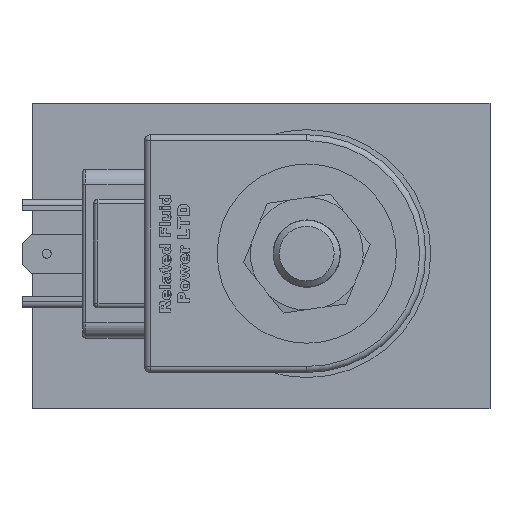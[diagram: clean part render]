
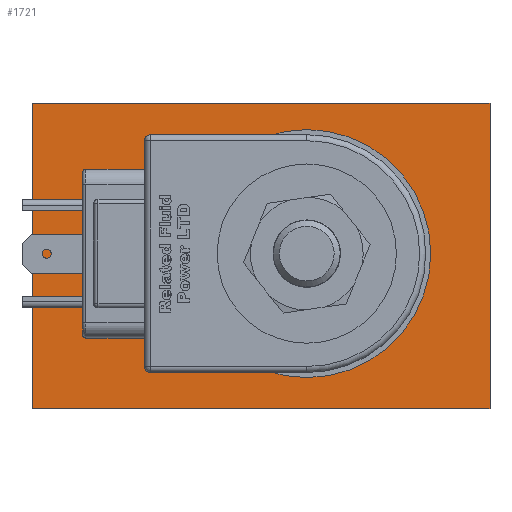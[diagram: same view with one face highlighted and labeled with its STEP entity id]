
A CAD part, front view. The second image highlights one B-rep face of the part: STEP entity #1721.
In plain terms, the highlighted planar face has unit normal (0, -1, 0).
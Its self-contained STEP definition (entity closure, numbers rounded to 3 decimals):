
#1721 = ADVANCED_FACE( '', ( #3485, #3486 ), #3487, .F. );
#3485 = FACE_BOUND( '', #5451, .T. );
#3486 = FACE_OUTER_BOUND( '', #5452, .T. );
#3487 = PLANE( '', #5453 );
#5451 = EDGE_LOOP( '', ( #9839 ) );
#5452 = EDGE_LOOP( '', ( #9840, #9841, #9842, #9843 ) );
#5453 = AXIS2_PLACEMENT_3D( '', #9844, #9845, #9846 );
#9839 = ORIENTED_EDGE( '', *, *, #12996, .T. );
#9840 = ORIENTED_EDGE( '', *, *, #11423, .F. );
#9841 = ORIENTED_EDGE( '', *, *, #12997, .F. );
#9842 = ORIENTED_EDGE( '', *, *, #12819, .F. );
#9843 = ORIENTED_EDGE( '', *, *, #12351, .F. );
#9844 = CARTESIAN_POINT( '', ( 0., 0., 0. ) );
#9845 = DIRECTION( '', ( 0., 1., 0. ) );
#9846 = DIRECTION( '', ( 0., 0., 1. ) );
#11423 = EDGE_CURVE( '', #13383, #13385, #13386, .T. );
#12351 = EDGE_CURVE( '', #13385, #14904, #14905, .T. );
#12819 = EDGE_CURVE( '', #14904, #15561, #15562, .T. );
#12996 = EDGE_CURVE( '', #15777, #15777, #15778, .T. );
#12997 = EDGE_CURVE( '', #15561, #13383, #15779, .T. );
#13383 = VERTEX_POINT( '', #16294 );
#13385 = VERTEX_POINT( '', #16297 );
#13386 = LINE( '', #16298, #16299 );
#14904 = VERTEX_POINT( '', #19168 );
#14905 = LINE( '', #19169, #19170 );
#15561 = VERTEX_POINT( '', #20382 );
#15562 = LINE( '', #20383, #20384 );
#15777 = VERTEX_POINT( '', #20880 );
#15778 = CIRCLE( '', #20881, 20.638 );
#15779 = LINE( '', #20882, #20883 );
#16294 = CARTESIAN_POINT( '', ( 76.2, 0., 0. ) );
#16297 = CARTESIAN_POINT( '', ( 0., 0., 0. ) );
#16298 = CARTESIAN_POINT( '', ( 76.2, 0., 0. ) );
#16299 = VECTOR( '', #21501, 1000. );
#19168 = CARTESIAN_POINT( '', ( 0., 0., 50.8 ) );
#19169 = CARTESIAN_POINT( '', ( 0., 0., 0. ) );
#19170 = VECTOR( '', #22348, 1000. );
#20382 = CARTESIAN_POINT( '', ( 76.2, 0., 50.8 ) );
#20383 = CARTESIAN_POINT( '', ( 0., 0., 50.8 ) );
#20384 = VECTOR( '', #22724, 1000. );
#20880 = CARTESIAN_POINT( '', ( 45.7, 0., 5.163 ) );
#20881 = AXIS2_PLACEMENT_3D( '', #22830, #22831, #22832 );
#20882 = CARTESIAN_POINT( '', ( 76.2, 0., 50.8 ) );
#20883 = VECTOR( '', #22833, 1000. );
#21501 = DIRECTION( '', ( -1., 0., 0. ) );
#22348 = DIRECTION( '', ( 0., 0., 1. ) );
#22724 = DIRECTION( '', ( 1., 0., 0. ) );
#22830 = CARTESIAN_POINT( '', ( 45.7, 0., 25.8 ) );
#22831 = DIRECTION( '', ( 0., 1., 0. ) );
#22832 = DIRECTION( '', ( 0., 0., -1. ) );
#22833 = DIRECTION( '', ( 0., 0., -1. ) );
